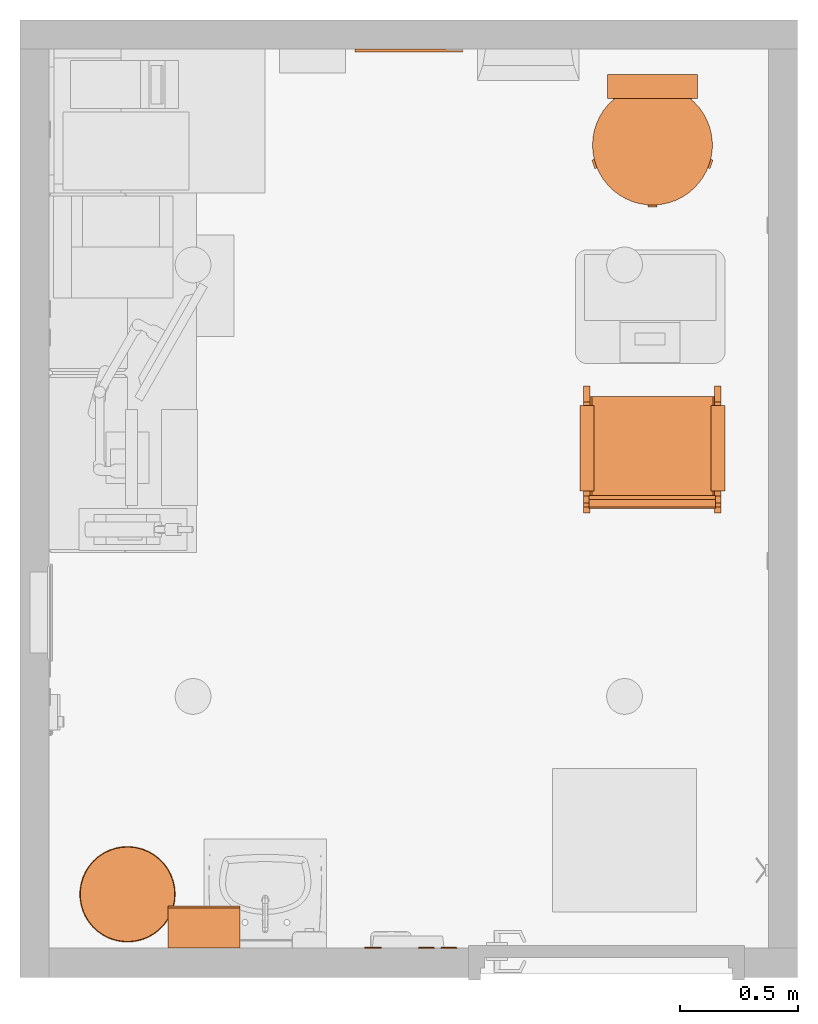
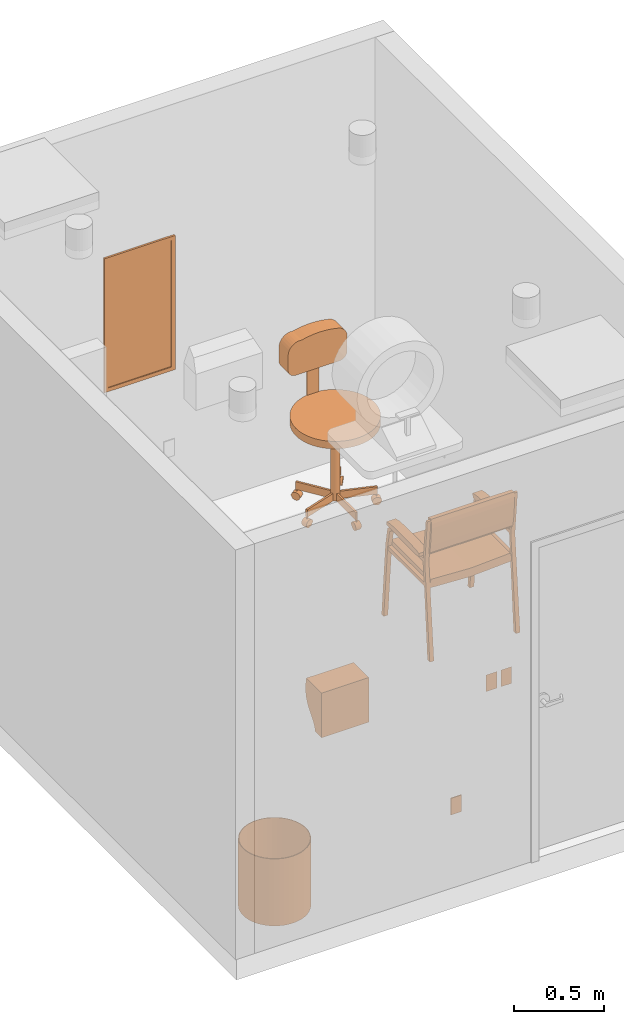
# One storey, part 5 of 11: 8 proxies.
"""IFC2X3 building model written with IfcOpenShell, lengths in feet."""

from ifc_helpers import new_model, entity, si_unit, converted_unit, derived_unit, direction, frame, frame_2d, origin, origin_2d_with_axis, place, context, subcontext, project, spatial, polyline, circle_curve, parameter, trimmed, segment, composite_curve, rectangle, circle, hollow_circle, outline, extrude, faceted_brep, source, transform, mapped, material, material_list, type_object, type_shapes, element, save


model = new_model("IFC2X3")

# Units and contexts
model_context = context("Model", 3, precision=0.0001, world=origin(), true_north=direction((6.12303176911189e-17, 1.0)))
body_context = subcontext(model_context, "Body", "Model", "MODEL_VIEW")
ifc_project = project(units=[converted_unit("LENGTHUNIT", "FOOT", entity("IfcRatioMeasure", 0.3048), si_unit("LENGTHUNIT", "METRE"), dimensions=[1, 0, 0, 0, 0, 0, 0]), converted_unit("AREAUNIT", "SQUARE FOOT", entity("IfcRatioMeasure", 0.09290304), si_unit("AREAUNIT", "SQUARE_METRE"), dimensions=[2, 0, 0, 0, 0, 0, 0]), converted_unit("VOLUMEUNIT", "CUBIC FOOT", entity("IfcRatioMeasure", 0.028316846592), si_unit("VOLUMEUNIT", "CUBIC_METRE"), dimensions=[3, 0, 0, 0, 0, 0, 0]), converted_unit("PLANEANGLEUNIT", "DEGREE", entity("IfcRatioMeasure", 0.0174532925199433), si_unit("PLANEANGLEUNIT", "RADIAN"), dimensions=[0, 0, 0, 0, 0, 0, 0]), si_unit("MASSUNIT", "GRAM", prefix="KILO"), derived_unit("MASSDENSITYUNIT", [(si_unit("MASSUNIT", "GRAM", prefix="KILO"), 1), (si_unit("LENGTHUNIT", "METRE"), -3)]), si_unit("TIMEUNIT", "SECOND"), si_unit("FREQUENCYUNIT", "HERTZ"), si_unit("THERMODYNAMICTEMPERATUREUNIT", "DEGREE_CELSIUS"), derived_unit("THERMALTRANSMITTANCEUNIT", [(si_unit("MASSUNIT", "GRAM", prefix="KILO"), 1), (si_unit("THERMODYNAMICTEMPERATUREUNIT", "KELVIN"), -1), (si_unit("TIMEUNIT", "SECOND"), -3)]), derived_unit("VOLUMETRICFLOWRATEUNIT", [(si_unit("LENGTHUNIT", "METRE"), 3), (si_unit("TIMEUNIT", "SECOND"), -1)]), si_unit("ELECTRICCURRENTUNIT", "AMPERE"), si_unit("ELECTRICVOLTAGEUNIT", "VOLT"), si_unit("POWERUNIT", "WATT"), si_unit("FORCEUNIT", "NEWTON"), si_unit("ILLUMINANCEUNIT", "LUX"), si_unit("LUMINOUSFLUXUNIT", "LUMEN"), si_unit("LUMINOUSINTENSITYUNIT", "CANDELA"), derived_unit("USERDEFINED", [(si_unit("MASSUNIT", "GRAM", prefix="KILO"), -1), (si_unit("LENGTHUNIT", "METRE"), -2), (si_unit("TIMEUNIT", "SECOND"), 3), (si_unit("LUMINOUSFLUXUNIT", "LUMEN"), 1)]), derived_unit("LINEARVELOCITYUNIT", [(si_unit("LENGTHUNIT", "METRE"), 1), (si_unit("TIMEUNIT", "SECOND"), -1)]), si_unit("PRESSUREUNIT", "PASCAL"), derived_unit("USERDEFINED", [(si_unit("LENGTHUNIT", "METRE"), -2), (si_unit("MASSUNIT", "GRAM", prefix="KILO"), 1), (si_unit("TIMEUNIT", "SECOND"), -2)])], contexts=[model_context])

# Site, building, storey, space
site_placement = place(None, origin())
site = spatial("IfcSite", under=ifc_project, at=site_placement, Name="Default", CompositionType="ELEMENT")
building_placement = place(site_placement, origin())
building = spatial("IfcBuilding", under=site, at=building_placement, Name="EYE CLINIC:  OPTHALMOLOGY AND OPTOMETRY SERVICES (Ch. 233)", CompositionType="ELEMENT")
storey_placement = place(building_placement, origin())
storey = spatial("IfcBuildingStorey", under=building, at=storey_placement, Name="DATUM", CompositionType="ELEMENT", Elevation=0.0)
space_placement = place(storey_placement, origin())
space = spatial("IfcSpace", under=storey, at=space_placement, Name="(OPVF2)", CompositionType="ELEMENT", InteriorOrExteriorSpace="INTERNAL")

# Proxies
building_element_proxy_type_1 = type_object("IfcBuildingElementProxyType", Name="F0205 - Side Chair with Arms", PredefinedType="NOTDEFINED")
shared_shape_1 = source(origin(), body_context, "Body", "SweptSolid", [
    extrude(outline(polyline([(-0.104007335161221, -0.374369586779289), (-0.027711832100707, -0.374369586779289), (-0.0197350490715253, -0.338348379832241), (0.00592434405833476, -0.182113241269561), (0.0162560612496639, -0.135457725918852), (0.0457826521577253, -0.00212284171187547), (0.0856087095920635, 0.177721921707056), (0.112798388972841, 0.276572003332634), (0.120257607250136, 0.307674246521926), (0.129202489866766, 0.415216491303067), (0.045581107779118, 0.433734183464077), (0.0167028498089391, 0.395704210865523), (-0.0364083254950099, 0.222671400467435), (-0.125070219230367, -0.177704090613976), (-0.13682888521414, -0.27538652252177), (-0.128352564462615, -0.36942248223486), (-0.104007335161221, -0.374369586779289)])), frame((-0.891159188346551, -0.878769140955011, 2.73061112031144), z_axis=(0.0, 1.0, 0.0), x_axis=(0.991475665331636, 0.0, -0.130291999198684)), (0.0, 0.0, 1.0), 1.75919993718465),
    extrude(outline(polyline([(0.0907668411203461, -0.842703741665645), (0.261538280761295, -0.842703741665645), (0.265730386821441, -0.773999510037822), (0.127479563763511, 0.0287496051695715), (-0.0923338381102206, 0.813085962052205), (-0.125373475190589, 0.873420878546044), (-0.279635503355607, 0.800086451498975), (-0.270660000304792, 0.752608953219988), (-0.0560029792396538, -0.0126173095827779), (0.0784907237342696, -0.795927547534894), (0.0907668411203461, -0.842703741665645)])), frame((-0.90556950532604, 0.000822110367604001, 1.62079321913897), z_axis=(1.0, 0.0, 0.0), x_axis=(0.0, -0.219936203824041, -0.975514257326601)), (0.0, 0.0, 1.0), 1.47211210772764),
    extrude(outline(polyline([(-0.552031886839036, -0.234422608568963), (-0.484734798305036, -0.234422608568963), (-0.233837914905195, -0.160903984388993), (0.324339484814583, 0.0422559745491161), (0.453697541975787, 0.101150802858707), (0.564536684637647, 0.176717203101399), (0.51204038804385, 0.250193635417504), (0.420212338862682, 0.216770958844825), (0.254858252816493, 0.145732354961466), (-0.246233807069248, -0.0366502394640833), (-0.436544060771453, -0.0986810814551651), (-0.576302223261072, -0.167740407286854), (-0.552031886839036, -0.234422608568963)])), frame((-0.1510824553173, -1.00916916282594, 2.22827697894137), z_axis=(0.0, 1.0, 0.0), x_axis=(0.939692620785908, 0.0, 0.34202014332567)), (0.0, 0.0, 1.0), 0.198199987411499),
    extrude(outline(polyline([(-0.525375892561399, -0.221085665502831), (-0.458078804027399, -0.221085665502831), (-0.207181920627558, -0.147567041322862), (0.350995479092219, 0.0555929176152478), (0.480353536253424, 0.114487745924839), (0.591192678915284, 0.190054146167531), (0.551062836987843, 0.246221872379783), (0.114629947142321, 0.0873732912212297), (0.281514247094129, 0.159069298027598), (-0.219577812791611, -0.0233132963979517), (-0.409888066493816, -0.0853441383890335), (-0.549646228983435, -0.154403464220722), (-0.525375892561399, -0.221085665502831)])), frame((-0.180692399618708, 0.814330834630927, 2.23169271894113), z_axis=(0.0, 1.0, 0.0), x_axis=(0.939692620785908, 0.0, 0.34202014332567)), (0.0, 0.0, 1.0), 0.196499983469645),
    extrude(outline(polyline([(0.0166377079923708, -0.666422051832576), (0.099971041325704, -0.666422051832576), (-0.0172324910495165, 0.673220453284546), (-0.0993762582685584, 0.659623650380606), (0.0166377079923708, -0.666422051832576)])), frame((-0.182442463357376, -0.954369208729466, 1.61480726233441), z_axis=(0.0, 1.0, 0.0), x_axis=(0.0871557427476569, 0.0, -0.996194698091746)), (0.0, 0.0, 1.0), 0.0833333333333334),
    extrude(outline(polyline([(0.0166377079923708, -0.666422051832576), (0.099971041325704, -0.666422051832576), (-0.0172324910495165, 0.673220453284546), (-0.0993762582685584, 0.659623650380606), (0.0166377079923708, -0.666422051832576)])), frame((-0.182442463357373, 0.867430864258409, 1.61480726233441), z_axis=(0.0, 1.0, 0.0), x_axis=(0.0871557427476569, 0.0, -0.996194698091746)), (0.0, 0.0, 1.0), 0.0833333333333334),
    extrude(outline(polyline([(0.811855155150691, -1.61770011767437), (0.895188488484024, -1.61770011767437), (0.71143329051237, 0.489199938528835), (0.806416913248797, 1.46713632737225), (0.751033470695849, 1.46713632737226), (0.656855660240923, 0.571094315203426), (-0.516612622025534, 0.571094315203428), (-0.653571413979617, 0.441277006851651), (-0.728375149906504, 0.0391907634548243), (-0.871611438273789, -1.61770011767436), (-0.791571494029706, -1.61770011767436), (-0.646611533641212, 0.0391998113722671), (-0.578172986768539, 0.407071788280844), (-0.496044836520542, 0.48919993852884), (0.649788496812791, 0.489199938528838), (0.811855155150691, -1.61770011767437)])), frame((-0.163768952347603, -0.954369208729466, 1.61770011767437), z_axis=(0.0, 1.0, 0.0), x_axis=(-1.0, 0.0, 0.0)), (0.0, 0.0, 1.0), 0.0885709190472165),
    extrude(outline(polyline([(0.811855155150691, -1.61770011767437), (0.895188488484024, -1.61770011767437), (0.71143329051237, 0.489199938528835), (0.806416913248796, 1.46713632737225), (0.751033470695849, 1.46713632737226), (0.656855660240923, 0.571094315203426), (-0.516612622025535, 0.571094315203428), (-0.653571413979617, 0.441277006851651), (-0.728375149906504, 0.0391907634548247), (-0.871611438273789, -1.61770011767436), (-0.791571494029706, -1.61770011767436), (-0.646611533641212, 0.0391998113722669), (-0.578172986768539, 0.407071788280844), (-0.496044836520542, 0.48919993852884), (0.649788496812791, 0.489199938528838), (0.811855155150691, -1.61770011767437)])), frame((-0.1637689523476, 0.867430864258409, 1.61770011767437), z_axis=(0.0, 1.0, 0.0), x_axis=(-1.0, 0.0, 0.0)), (0.0, 0.0, 1.0), 0.0885709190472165),
])
type_shapes(building_element_proxy_type_1, [shared_shape_1])
proxy_1_placement = place(space_placement, frame((198.027769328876, 23.6177050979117, 0.0), z_axis=(0.0, 0.0, 1.0), x_axis=(0.0, 1.0, 0.0)))
element("IfcBuildingElementProxy", 1, at=proxy_1_placement, inside=space, type_object=building_element_proxy_type_1, Name="F0205 - Side Chair with Arms:F0205 - Side Chair with Arms", ObjectType="F0205 - Side Chair with Arms", context=body_context, shape_type="MappedRepresentation", body=[
    mapped(shared_shape_1, transform((0.0, 0.0, 0.0), scale=1.0)),
])
ifc_material_1 = material(Name="Stool cushion")
ifc_material_2 = material(Name="Stool caster")
ifc_material_3 = material(Name="Stool metal")
ifc_material_list_1 = material_list([ifc_material_1, ifc_material_2, ifc_material_3])
ifc_material_list_2 = material_list([ifc_material_1, ifc_material_2, ifc_material_3])
building_element_proxy_type_2 = type_object("IfcBuildingElementProxyType", Name="UXX17 - Stool with Back", PredefinedType="NOTDEFINED", material=ifc_material_list_2)
shared_shape_2 = source(origin(), body_context, "Body", "SweptSolid", [
    extrude(circle(Radius=0.833333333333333, at=frame_2d((2.28760446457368e-17, -1.34628714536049e-15), x_axis=(1.0, 0.0))), frame((0.0, 0.0, 1.91666666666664)), (0.0, 0.0, 1.0), 0.166666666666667),
    extrude(circle(Radius=0.084518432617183, at=frame_2d((0.0, -1.38777878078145e-16), x_axis=(1.0, 0.0))), frame((0.717011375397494, 0.287734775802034, 0.0845184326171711), z_axis=(0.309016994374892, -0.951056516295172, 0.0), x_axis=(-0.951056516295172, -0.309016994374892, 0.0)), (0.0, 0.0, 1.0), 0.104166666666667),
    extrude(outline(composite_curve([segment(polyline([(-0.0925649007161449, 0.0), (0.0925649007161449, 0.0)]), True, "CONTINUOUS"), segment(trimmed(circle_curve(origin_2d_with_axis(), 0.0925649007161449), [parameter(2.03555499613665e-13)], [parameter(180.0)], True, "PARAMETER"), True, "CONTINUOUS")], self_intersect=False)), frame((0.752419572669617, 0.178759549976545, 0.0845184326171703), z_axis=(-0.309016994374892, 0.951056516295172, 0.0), x_axis=(-0.951056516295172, -0.309016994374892, 0.0)), (0.0, 0.0, 1.0), 0.125),
    extrude(circle(Radius=0.0115130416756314, at=frame_2d((7.9106571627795e-18, 1.14165428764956e-16), x_axis=(1.0, 0.0))), frame((0.73310678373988, 0.238198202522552, 0.177083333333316), z_axis=(0.0, 0.0, 1.0), x_axis=(0.309016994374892, -0.951056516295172, 0.0)), (0.0, 0.0, 1.0), 0.0442708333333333),
    extrude(rectangle(XDim=0.0416641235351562, YDim=0.7059128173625, at=frame_2d((1.38777878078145e-17, 0.0), x_axis=(1.0, 0.0))), frame((0.412570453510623, 0.134049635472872, 0.221354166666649), z_axis=(0.0, 0.0, 1.0), x_axis=(-0.309016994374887, 0.951056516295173, 0.0)), (0.0, 0.0, 1.0), 0.166666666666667),
    extrude(circle(Radius=0.084518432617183, at=frame_2d((0.0, -3.7470027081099e-16), x_axis=(1.0, 0.0))), frame((0.410948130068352, -0.654231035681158, 0.0845184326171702), z_axis=(0.809016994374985, 0.587785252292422, 0.0), x_axis=(-0.587785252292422, 0.809016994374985, 0.0)), (0.0, 0.0, 1.0), 0.104166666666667),
    extrude(outline(composite_curve([segment(polyline([(-0.0925649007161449, 0.0), (0.0925649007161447, 0.0)]), True, "CONTINUOUS"), segment(trimmed(circle_curve(origin_2d_with_axis(), 0.0925649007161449), [parameter(2.03555499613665e-13)], [parameter(180.0)], True, "PARAMETER"), True, "CONTINUOUS")], self_intersect=False)), frame((0.402520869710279, -0.660353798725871, 0.0845184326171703), z_axis=(0.809016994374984, 0.587785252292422, 0.0), x_axis=(-0.587785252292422, 0.809016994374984, 0.0)), (0.0, 0.0, 1.0), 0.125),
    extrude(circle(Radius=0.0115130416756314, at=origin_2d_with_axis()), frame((0.453082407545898, -0.623618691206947, 0.177083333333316), z_axis=(0.0, 0.0, 1.0), x_axis=(-0.809016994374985, -0.587785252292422, 0.0)), (0.0, 0.0, 1.0), 0.0442708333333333),
    extrude(rectangle(XDim=0.0416641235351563, YDim=0.705912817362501, at=frame_2d((0.0, -1.38777878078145e-16), x_axis=(1.0, 0.0))), frame((0.254980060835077, -0.350954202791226, 0.221354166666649), z_axis=(0.0, 0.0, 1.0), x_axis=(0.809016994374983, 0.587785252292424, 0.0)), (0.0, 0.0, 1.0), 0.166666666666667),
    extrude(circle(Radius=0.084518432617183, at=frame_2d((-3.2628636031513e-17, -1.38777878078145e-16), x_axis=(1.0, 0.0))), frame((-0.410948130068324, -0.654231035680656, 0.0845184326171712), z_axis=(-0.809016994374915, 0.587785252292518, 0.0), x_axis=(0.587785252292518, 0.809016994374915, 0.0)), (0.0, 0.0, 1.0), 0.104166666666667),
    extrude(outline(composite_curve([segment(trimmed(circle_curve(origin_2d_with_axis(), 0.0925649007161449), [parameter(180.0)], [parameter(360.0)], True, "PARAMETER"), True, "CONTINUOUS"), segment(polyline([(0.0925649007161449, 0.0), (-0.0925649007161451, 0.0)]), True, "CONTINUOUS")], self_intersect=False)), frame((-0.402520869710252, -0.66035379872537, 0.0845184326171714), z_axis=(-0.809016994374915, 0.587785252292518, 0.0), x_axis=(0.587785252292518, 0.809016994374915, 0.0)), (0.0, 0.0, 1.0), 0.125),
    extrude(circle(Radius=0.0115130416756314, at=frame_2d((-4.49094647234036e-17, -3.2628636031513e-17), x_axis=(1.0, 0.0))), frame((-0.453086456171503, -0.623615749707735, 0.177083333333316), z_axis=(0.0, 0.0, 1.0), x_axis=(-0.809016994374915, 0.587785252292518, 0.0)), (0.0, 0.0, 1.0), 0.0442708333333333),
    extrude(rectangle(XDim=0.0416641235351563, YDim=0.7059128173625, at=frame_2d((-4.16333634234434e-17, 5.55111512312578e-17), x_axis=(1.0, 0.0))), frame((-0.254984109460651, -0.350951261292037, 0.221354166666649), z_axis=(0.0, 0.0, 1.0), x_axis=(0.809016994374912, -0.587785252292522, 0.0)), (0.0, 0.0, 1.0), 0.166666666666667),
    extrude(circle(Radius=0.084518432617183, at=frame_2d((0.0, -1.38777878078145e-16), x_axis=(1.0, 0.0))), frame((-0.749200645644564, 0.188666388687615, 0.0845184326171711), z_axis=(0.309016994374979, 0.951056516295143, 0.0), x_axis=(0.951056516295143, -0.309016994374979, 0.0)), (0.0, 0.0, 1.0), 0.104166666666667),
    extrude(outline(composite_curve([segment(trimmed(circle_curve(origin_2d_with_axis(), 0.0925649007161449), [parameter(180.0)], [parameter(360.0)], True, "PARAMETER"), True, "CONTINUOUS"), segment(polyline([(0.0925649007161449, 0.0), (-0.0925649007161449, 0.0)]), True, "CONTINUOUS")], self_intersect=False)), frame((-0.752419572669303, 0.178759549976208, 0.0845184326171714), z_axis=(0.309016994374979, 0.951056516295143, 0.0), x_axis=(0.951056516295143, -0.309016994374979, 0.0)), (0.0, 0.0, 1.0), 0.125),
    extrude(circle(Radius=0.0115130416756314, at=frame_2d((7.91065716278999e-18, -1.14165428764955e-16), x_axis=(1.0, 0.0))), frame((-0.733105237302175, 0.238202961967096, 0.177083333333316), z_axis=(0.0, 0.0, 1.0), x_axis=(0.309016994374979, 0.951056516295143, 0.0)), (0.0, 0.0, 1.0), 0.0442708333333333),
    extrude(rectangle(XDim=0.0416641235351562, YDim=0.7059128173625, at=origin_2d_with_axis()), frame((-0.412568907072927, 0.134054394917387, 0.221354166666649), z_axis=(0.0, 0.0, 1.0), x_axis=(-0.309016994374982, -0.951056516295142, 0.0)), (0.0, 0.0, 1.0), 0.166666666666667),
    extrude(circle(Radius=0.084518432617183, at=frame_2d((-1.76415182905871e-31, -1.38777878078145e-16), x_axis=(1.0, 0.0))), frame((-0.0520833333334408, 0.770833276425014, 0.0845184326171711), z_axis=(1.0, 0.0, 0.0), x_axis=(0.0, -1.0, 0.0)), (0.0, 0.0, 1.0), 0.104166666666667),
    extrude(outline(composite_curve([segment(trimmed(circle_curve(origin_2d_with_axis(), 0.0925649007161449), [parameter(180.0)], [parameter(360.0)], True, "PARAMETER"), True, "CONTINUOUS"), segment(polyline([(0.0925649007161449, 0.0), (-0.0925649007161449, 0.0)]), True, "CONTINUOUS")], self_intersect=False)), frame((-0.0625000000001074, 0.770833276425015, 0.0845184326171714), z_axis=(1.0, 0.0, 0.0), x_axis=(0.0, -1.0, 0.0)), (0.0, 0.0, 1.0), 0.125),
    extrude(circle(Radius=0.0115130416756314, at=frame_2d((7.04731412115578e-19, 1.79171670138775e-32), x_axis=(1.0, 0.0))), frame((2.50218814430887e-06, 0.770833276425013, 0.177083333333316)), (0.0, 0.0, 1.0), 0.0442708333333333),
    extrude(rectangle(XDim=0.0416641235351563, YDim=0.7059128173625, at=frame_2d((3.46944695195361e-18, 5.55111512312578e-17), x_axis=(1.0, 0.0))), frame((2.50218813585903e-06, 0.433801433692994, 0.221354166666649), z_axis=(0.0, 0.0, 1.0), x_axis=(-1.0, 0.0, 0.0)), (0.0, 0.0, 1.0), 0.166666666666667),
    extrude(circle(Radius=0.0834863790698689, at=frame_2d((2.89333175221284e-18, -1.34875966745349e-16), x_axis=(1.0, 0.0))), frame((0.0, 0.0, 0.221354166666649)), (0.0, 0.0, 1.0), 1.69531249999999),
    extrude(outline(composite_curve([segment(trimmed(circle_curve(frame_2d((0.185507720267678, 0.4466148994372), x_axis=(1.0, 0.0)), 0.166666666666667), [parameter(360.0)], [parameter(89.9999999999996)], True, "PARAMETER"), True, "CONTINUOUS"), segment(polyline([(0.18550772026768, 0.613281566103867), (-0.146109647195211, 0.613281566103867)]), True, "CONTINUOUS"), segment(trimmed(circle_curve(frame_2d((-0.146109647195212, 0.363281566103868), x_axis=(1.0, 0.0)), 0.25), [parameter(89.9999999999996)], [parameter(167.554243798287)], True, "PARAMETER"), True, "CONTINUOUS"), segment(trimmed(circle_curve(frame_2d((1.0954107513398, 0.0299482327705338), x_axis=(1.0, 0.0)), 1.53527712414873), [parameter(165.391676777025)], [parameter(194.207051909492)], True, "PARAMETER"), True, "CONTINUOUS"), segment(trimmed(circle_curve(frame_2d((-0.146109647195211, -0.386718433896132), x_axis=(1.0, 0.0)), 0.25), [parameter(170.823595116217)], [parameter(269.999999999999)], True, "PARAMETER"), True, "CONTINUOUS"), segment(polyline([(-0.146109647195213, -0.636718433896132), (0.185507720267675, -0.636718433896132)]), True, "CONTINUOUS"), segment(trimmed(circle_curve(frame_2d((0.185507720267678, -0.470051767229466), x_axis=(1.0, 0.0)), 0.166666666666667), [parameter(270.0)], [parameter(360.0)], True, "PARAMETER"), True, "CONTINUOUS"), segment(polyline([(0.352174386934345, -0.470051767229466), (0.352174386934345, 0.4466148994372)]), True, "CONTINUOUS")], self_intersect=False)), frame((-0.0117184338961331, -0.979166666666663, 3.10217438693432), z_axis=(0.0, 1.0, 0.0), x_axis=(0.0, 0.0, -1.0)), (0.0, 0.0, 1.0), 0.333333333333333),
    extrude(rectangle(XDim=0.25, YDim=0.0208333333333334, at=frame_2d((0.0, 5.55111512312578e-17), x_axis=(1.0, 0.0))), frame((0.0, -0.822916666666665, 1.91666666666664), z_axis=(0.0, 0.0, 1.0), x_axis=(-1.0, 0.0, 0.0)), (0.0, 0.0, 1.0), 0.833333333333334),
])
type_shapes(building_element_proxy_type_2, [shared_shape_2])
proxy_2_placement = place(space_placement, frame((198.027769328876, 27.6774173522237, 0.0), z_axis=(0.0, 0.0, 1.0), x_axis=(-1.0, 0.0, 0.0)))
element("IfcBuildingElementProxy", 2, at=proxy_2_placement, inside=space, type_object=building_element_proxy_type_2, material=ifc_material_list_1, Name="UXX17 - Stool with Back:UXX17 - Stool with Back", ObjectType="UXX17 - Stool with Back", context=body_context, shape_type="MappedRepresentation", body=[
    mapped(shared_shape_2, transform((0.0, 0.0, 0.0), scale=1.0)),
])
ifc_material_4 = material(Name="Plastic - White")
building_element_proxy_type_3 = type_object("IfcBuildingElementProxyType", Name="Single", PredefinedType="NOTDEFINED", material=ifc_material_4)
shared_shape_3 = source(origin(), body_context, "Body", "Brep", [
    faceted_brep([(0.0156250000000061, 0.0156249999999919, 0.359375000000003), (0.213541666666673, 0.0156249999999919, 0.359375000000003), (0.213541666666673, 0.0156249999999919, 0.0156250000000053), (0.0156250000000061, 0.0156249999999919, 0.0156250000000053), (0.0, 0.0, 0.375), (0.0, 0.0, 0.0), (0.229166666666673, 0.0, 0.0), (0.229166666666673, 0.0, 0.375)], [[[0, 1, 2, 3]], [[4, 5, 6, 7]], [[4, 7, 1, 0]], [[7, 6, 2, 1]], [[6, 5, 3, 2]], [[5, 4, 0, 3]]]),
])
type_shapes(building_element_proxy_type_3, [shared_shape_3])
for number, where, name in (
    (3, (195.082477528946, 16.510750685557, 3.8125), "Switch-Single:Single"),
    (4, (194.769977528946, 16.510750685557, 3.8125), "Switch-Single:Single"),
):
    element("IfcBuildingElementProxy", number, at=place(space_placement, frame(where)), inside=space, type_object=building_element_proxy_type_3, material=ifc_material_4, Name=name, ObjectType="Single", context=body_context, shape_type="MappedRepresentation", body=[
        mapped(shared_shape_3, transform((0.0, 0.0, 0.0), scale=1.0)),
    ])
building_element_proxy_type_4 = type_object("IfcBuildingElementProxyType", Name="A5082 - Dispenser, Paper Towel, Sensor, Hands Free", PredefinedType="NOTDEFINED")
shared_shape_4 = source(origin(), body_context, "Body", "SweptSolid", [
    extrude(outline(polyline([(-0.571680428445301, -0.394840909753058), (0.428319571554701, -0.394840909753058), (0.4283195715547, -0.159932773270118), (0.376442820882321, -0.151554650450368), (0.329481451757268, -0.136660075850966), (0.2864326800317, -0.116260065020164), (0.246293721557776, -0.0913656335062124), (0.208061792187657, -0.0629877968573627), (0.1707341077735, -0.0321375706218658), (0.133307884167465, 0.000174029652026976), (0.0947803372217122, 0.0329359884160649), (0.0541486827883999, 0.0651372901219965), (0.0104101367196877, 0.0957669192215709), (-0.0374380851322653, 0.123813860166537), (-0.0903987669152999, 0.148267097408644), (-0.149474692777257, 0.168115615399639), (-0.215668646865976, 0.182348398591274), (-0.2899834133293, 0.189954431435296), (-0.373421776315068, 0.189922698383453), (-0.466986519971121, 0.181242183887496), (-0.571680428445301, 0.162901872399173), (-0.571680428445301, -0.394840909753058)])), frame((0.0, 0.394840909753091, 0.428319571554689), z_axis=(1.0, 0.0, 0.0), x_axis=(0.0, 0.0, -1.0)), (0.0, 0.0, 1.0), 1.0),
])
type_shapes(building_element_proxy_type_4, [shared_shape_4])
proxy_3_placement = place(space_placement, frame((191.289317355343, 16.510750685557, 4.0)))
element("IfcBuildingElementProxy", 5, at=proxy_3_placement, inside=space, type_object=building_element_proxy_type_4, Name="A5082 - Dispenser, Paper Towel, Sensor, Hands Free:A5082 - Dispenser, Paper Towel, Sensor, Hands Free", ObjectType="A5082 - Dispenser, Paper Towel, Sensor, Hands Free", context=body_context, shape_type="MappedRepresentation", body=[
    mapped(shared_shape_4, transform((0.0, 0.0, 0.0), scale=1.0)),
])
building_element_proxy_type_5 = type_object("IfcBuildingElementProxyType", Name="F2000 - Basket, Wastepaper 16\"x 16\"", PredefinedType="NOTDEFINED")
shared_shape_5 = source(origin(), body_context, "Body", "SweptSolid", [
    extrude(circle(Radius=0.666666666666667, at=frame_2d((0.0, -1.07702971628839e-15), x_axis=(1.0, 0.0))), origin(), (0.0, 0.0, 1.0), 0.0104166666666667),
    extrude(hollow_circle(Radius=0.666666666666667, WallThickness=0.0104166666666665, at=frame_2d((0.0, -1.07702971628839e-15), x_axis=(1.0, 0.0))), frame((0.0, 0.0, 0.0104166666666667)), (0.0, 0.0, 1.0), 1.48958333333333),
])
type_shapes(building_element_proxy_type_5, [shared_shape_5])
proxy_4_placement = place(space_placement, frame((190.728310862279, 17.260205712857, 0.0)))
element("IfcBuildingElementProxy", 6, at=proxy_4_placement, inside=space, type_object=building_element_proxy_type_5, Name="F2000 - Basket, Wastepaper, Fire Resistant:F2000 - Basket, Wastepaper 16\"x 16\"", ObjectType="F2000 - Basket, Wastepaper 16\"x 16\"", context=body_context, shape_type="MappedRepresentation", body=[
    mapped(shared_shape_5, transform((0.0, 0.0, 0.0), scale=1.0)),
])
ifc_material_5 = material(Name="mirror glass")
ifc_material_6 = material(Name="Stainless Steel")
ifc_material_list_3 = material_list([ifc_material_5, ifc_material_6])
ifc_material_list_4 = material_list([ifc_material_5, ifc_material_6])
building_element_proxy_type_6 = type_object("IfcBuildingElementProxyType", Name="A1066 - Mirror, Float Glass", PredefinedType="NOTDEFINED", material=ifc_material_list_4)
shared_shape_6 = source(origin(), body_context, "Body", "SweptSolid", [
    extrude(rectangle(XDim=0.0208333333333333, YDim=1.33333333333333, at=origin_2d_with_axis()), frame((0.0, -0.0104166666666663, 3.33333333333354), z_axis=(0.0, 0.0, 1.0), x_axis=(0.0, 1.0, 0.0)), (0.0, 0.0, 1.0), 2.8333333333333),
    extrude(outline(polyline([(-0.75, -1.49999999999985), (0.75, -1.49999999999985), (0.75, 1.49999999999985), (-0.75, 1.49999999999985), (-0.75, -1.49999999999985)]), holes=[polyline([(-0.666666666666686, 1.4166666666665), (0.666666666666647, 1.41666666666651), (0.666666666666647, -1.41666666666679), (-0.666666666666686, -1.41666666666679), (-0.666666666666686, 1.4166666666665)])]), frame((0.0, -0.0416666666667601, 4.75000000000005), z_axis=(0.0, 1.0, 0.0), x_axis=(1.0, 0.0, 0.0)), (0.0, 0.0, 1.0), 0.0416666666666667),
])
type_shapes(building_element_proxy_type_6, [shared_shape_6])
proxy_5_placement = place(space_placement, frame((194.639769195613, 29.010750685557, 0.0)))
element("IfcBuildingElementProxy", 7, at=proxy_5_placement, inside=space, type_object=building_element_proxy_type_6, material=ifc_material_list_3, Name="A1066 - Mirror, Float Glass:A1066 - Mirror, Float Glass", ObjectType="A1066 - Mirror, Float Glass", context=body_context, shape_type="MappedRepresentation", body=[
    mapped(shared_shape_6, transform((0.0, 0.0, 0.0), scale=1.0)),
])
building_element_proxy_type_7 = type_object("IfcBuildingElementProxyType", Name="Duplex", PredefinedType="NOTDEFINED")
shared_shape_7 = source(origin(), body_context, "Body", "SweptSolid", [
    extrude(rectangle(XDim=0.0156249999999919, YDim=0.229166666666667, at=origin_2d_with_axis()), frame((0.0, 0.210937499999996, 0.0), z_axis=(0.0, 0.0, 1.0), x_axis=(0.0, 1.0, 0.0)), (0.0, 0.0, 1.0), 0.37500000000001),
])
type_shapes(building_element_proxy_type_7, [shared_shape_7])
proxy_6_placement = place(space_placement, frame((194.139769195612, 16.307625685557, 1.3125)))
element("IfcBuildingElementProxy", 8, at=proxy_6_placement, inside=space, type_object=building_element_proxy_type_7, Name="Outlet, Duplex, Wall:Duplex", ObjectType="Duplex", context=body_context, shape_type="MappedRepresentation", body=[
    mapped(shared_shape_7, transform((0.0, 0.0, 0.0), scale=1.0)),
])

save(model, "model.ifc")
